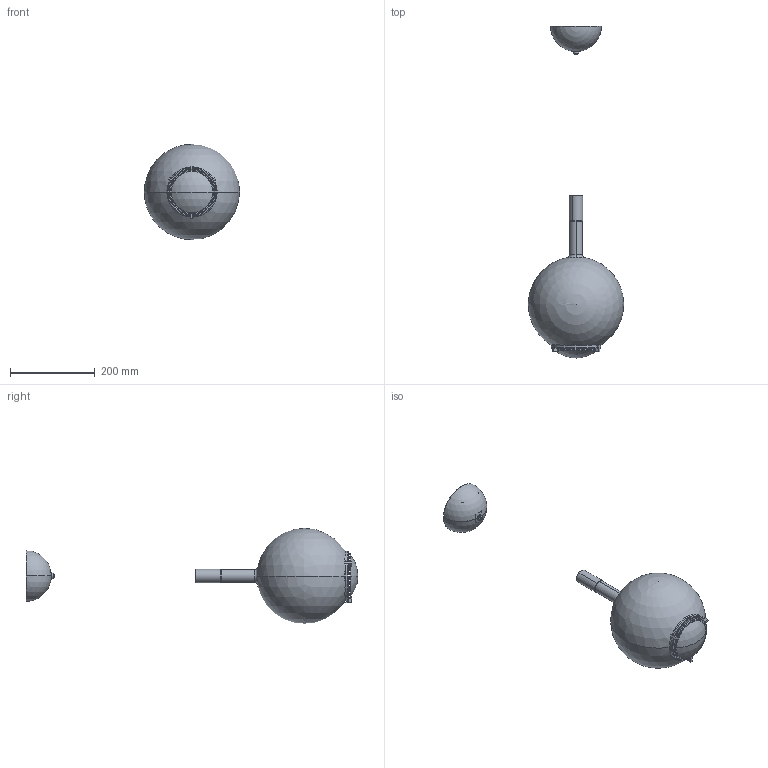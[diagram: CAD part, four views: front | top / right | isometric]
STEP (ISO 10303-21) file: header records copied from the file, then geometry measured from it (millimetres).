
FILE_DESCRIPTION (( 'STEP AP214' ), '1' );
FILE_NAME ('Sky-Fall Round_Medium.STEP', '2023-11-21T16:16:24', ( '' ), ( '' ), 'SwSTEP 2.0', 'SolidWorks 2023', '' );
FILE_SCHEMA (( 'AUTOMOTIVE_DESIGN' ));
Length unit declared in the file: millimetre
Products named in the file (26): PCD-16_teorica_NONusare; S201191_Rev00; S201343_Rev02; S201195_Rev01; Sky-Fall Round_Medium; S201243_Rev02; VIT-TSP_EI_VIT-0066; P200046_Rev02; S201196_Rev01; S201194_Rev02; S201206_Rev04; S201193_Rev01; VIT-TSP_EI_VIT-0069; LNS-001_02; S201847_Rev00; CeilingPack_06_01-DST; S201244_Rev01_sagomata; Sky-Fall_Frame-CE_01-DST; 223V001_Rev02; S201207_Rev04; S201192_Rev00; P200042_Rev01; LED-023_SDW92F1C_ZC_00; S201198_Rev03; S201315_Rev00; S201199_Rev00
Assembly tree (36 placements, depth 3):
  Sky-Fall Round_Medium
    Sky-Fall_Frame-CE_01-DST
      S201196_Rev01
      S201207_Rev04
      S201195_Rev01  x2
      S201206_Rev04
      S201315_Rev00
      S201343_Rev02  x3
      P200046_Rev02
      LNS-001_02
      LED-023_SDW92F1C_ZC_00  x2
      VIT-TSP_EI_VIT-0069  x3
    CeilingPack_06_01-DST
      S201243_Rev02
      S201847_Rev00  x2
      S201198_Rev03
      S201199_Rev00
      PCD-16_teorica_NONusare
    S201244_Rev01_sagomata  x2
    P200042_Rev01
    S201191_Rev00
    S201192_Rev00
    S201194_Rev02
    S201193_Rev01
    VIT-TSP_EI_VIT-0069  x2
    VIT-TSP_EI_VIT-0066  x2
    223V001_Rev02
Bounding box: 224.99 x 783.22 x 225 mm (x, y, z)
Volume: 690786.2 mm3; surface area: 510974.3 mm2
Topology: 34 solids, 34 shells, 733 faces, 1836 edges, 1148 vertices
Faces by surface type: cylinder 340, plane 265, cone 78, torus 34, sphere 12, bspline 4
Entity records: 17741 total; most frequent: CARTESIAN_POINT 3656, DIRECTION 3010, ORIENTED_EDGE 2592, EDGE_CURVE 1296, AXIS2_PLACEMENT_3D 1207, VERTEX_POINT 839, EDGE_LOOP 689, CIRCLE 654
